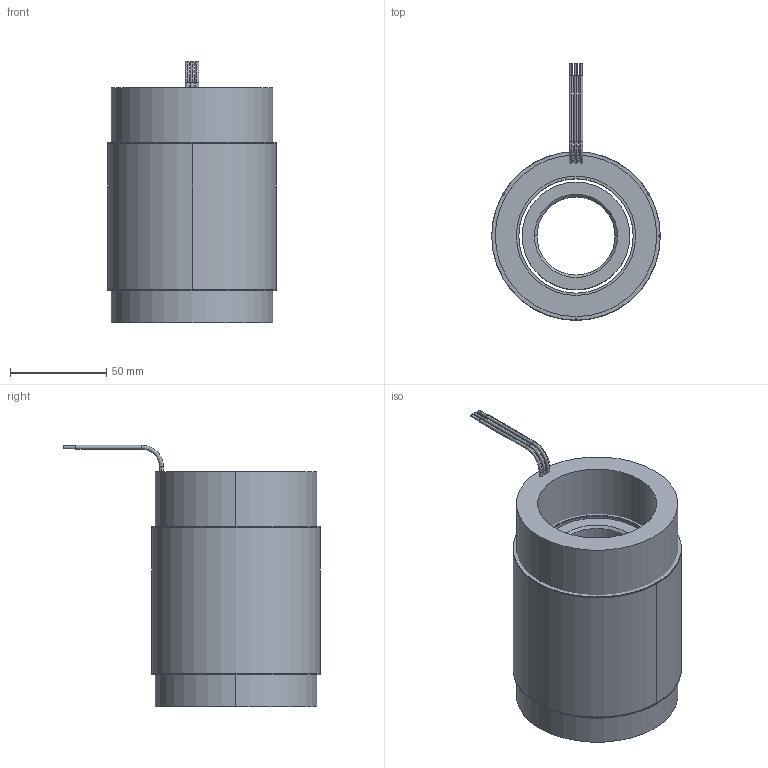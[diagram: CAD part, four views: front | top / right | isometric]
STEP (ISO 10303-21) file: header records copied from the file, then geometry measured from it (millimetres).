
FILE_DESCRIPTION (( 'STEP AP214' ), '1' );
FILE_NAME ('6100253-03.STEP', '2019-11-11T17:20:12', ( '' ), ( '' ), 'SwSTEP 2.0', 'SolidWorks 2016', '' );
FILE_SCHEMA (( 'AUTOMOTIVE_DESIGN' ));
Length unit declared in the file: millimetre
Products named in the file (11): COMP4500514-XX(COIL)_COMP4500514-02(COIL); 4250338-XX_4250338-02; 4150142-XX_4150142-02; 4450152-XX_4450152-02; 4600517-00; 6100253-03; 4400055-00; 4500514-XX_4500514-03
Assembly tree (10 placements, depth 4):
  6100253-03
    4500514-XX_4500514-03
      4450152-XX_4450152-02
        4450152-XX_4450152-02
        4400055-00
        4400055-00
        4600517-00
        4600517-00
      COMP4500514-XX(COIL)_COMP4500514-02(COIL)
    4250338-XX_4250338-02
      4150142-XX_4150142-02
Bounding box: 87.63 x 133.34 x 135.89 mm (x, y, z)
Volume: 647488.4 mm3; surface area: 155607.3 mm2
Topology: 7 solids, 7 shells, 91 faces, 203 edges, 132 vertices
Faces by surface type: cylinder 61, plane 20, torus 6, cone 4
Entity records: 3031 total; most frequent: DIRECTION 555, CARTESIAN_POINT 442, ORIENTED_EDGE 406, AXIS2_PLACEMENT_3D 245, EDGE_CURVE 203, CIRCLE 138, VERTEX_POINT 132, EDGE_LOOP 111
